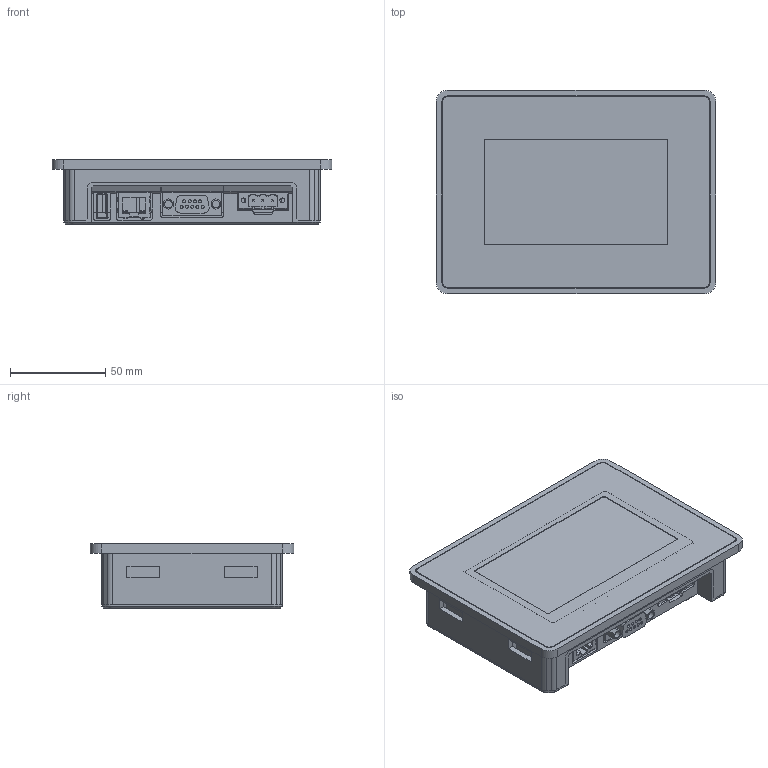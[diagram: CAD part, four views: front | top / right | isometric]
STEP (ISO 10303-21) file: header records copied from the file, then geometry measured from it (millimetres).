
FILE_DESCRIPTION (( 'STEP AP203' ), '1' );
FILE_NAME ('HMe04.STEP', '2015-02-27T15:09:09', ( '' ), ( '' ), 'SwSTEP 2.0', 'SolidWorks 2015', '' );
FILE_SCHEMA (( 'CONFIG_CONTROL_DESIGN' ));
Length unit declared in the file: millimetre
Products named in the file (1): HMe04
Bounding box: 147 x 107 x 34.05 mm (x, y, z)
Surface area: 93909.8 mm2 (no closed solid volume)
Topology: 0 solids, 28 shells, 740 faces, 2710 edges, 1973 vertices
Faces by surface type: plane 453, cylinder 211, bspline 65, cone 11
Entity records: 32053 total; most frequent: CARTESIAN_POINT 9576, DIRECTION 4319, ORIENTED_EDGE 4275, EDGE_CURVE 2710, LINE 2055, VECTOR 2055, VERTEX_POINT 1973, AXIS2_PLACEMENT_3D 1132
